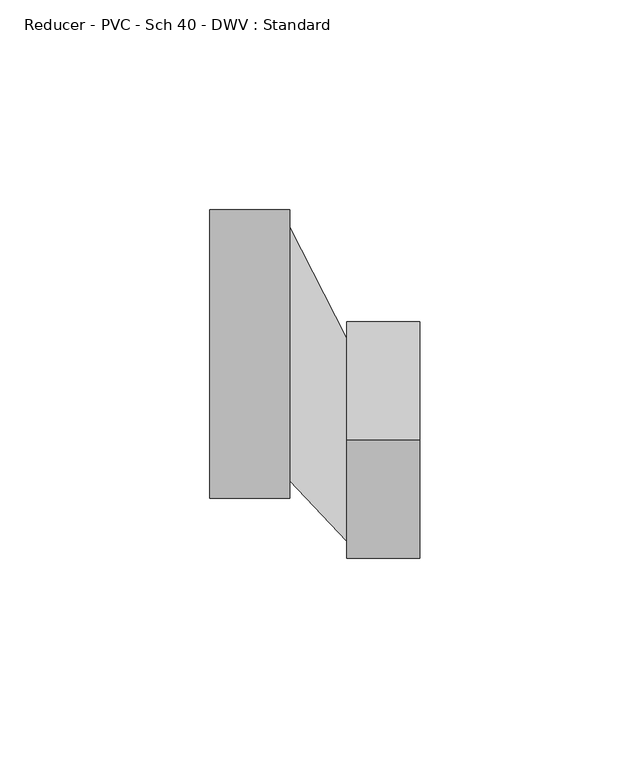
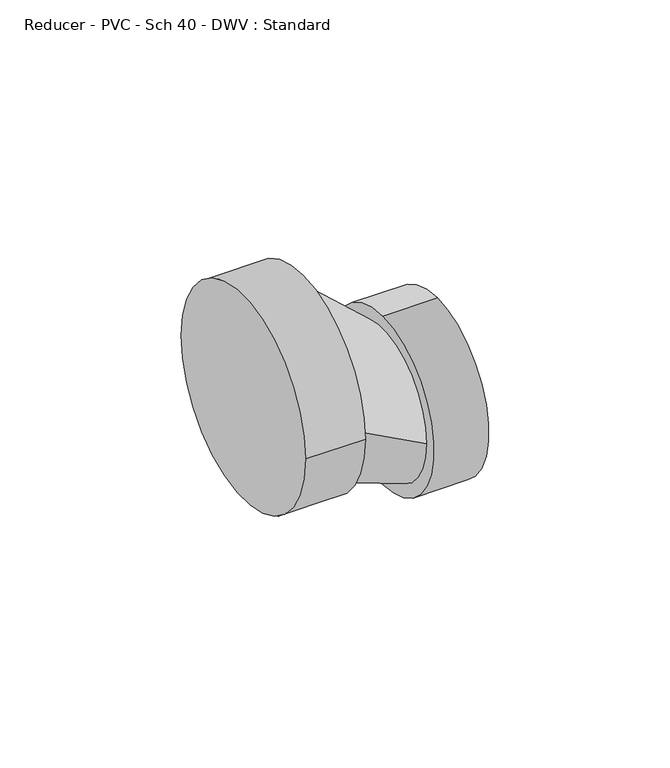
"""IFC4 building model written with IfcOpenShell, lengths in millimetres: pipe fitting geometry, Reducer - PVC - Sch 40 - DWV : Standard."""

from ifc_helpers import new_model, si_unit, frame, origin, place, context, project, spatial, circle_curve, source, transform, mapped, element, save
from ifc_brep_helpers import plane_surface, cylinder_surface, spline_surface, advanced_brep


def reducer_pvc_sch_40_dwv_standard_e5aaf6e1(model_context):
    return source(origin(), model_context, "Body", "AdvancedBrep", [
        advanced_brep(
        [(0.0, -34.3154, 0.0), (0.0, 34.3154, 0.0), (19.05, -34.3154, 0.0), (19.05, 34.3154, 0.0), (19.05, 30.1625, 0.0), (19.05, -30.1625, 0.0), (32.5374, 3.6518689, 0.0), (32.5374, -44.6081311, 0.0), (32.5374, -20.4781311, 28.2829), (32.5374, -20.4781311, -28.2829), (49.9872, -20.4781311, 28.2829), (49.9872, -20.4781311, -28.2829)],
        [
            (0, 1, circle_curve(frame((0.0, 0.0, 0.0), z_axis=(-1.0, 0.0, 0.0), x_axis=(0.0, 1.0, 0.0)), 34.3154)),
            (1, 0, circle_curve(frame((0.0, 0.0, 0.0), z_axis=(-1.0, 0.0, 0.0), x_axis=(0.0, 1.0, 0.0)), 34.3154)),
            (2, 3, circle_curve(frame((19.05, 0.0, 0.0), z_axis=(1.0, 0.0, 0.0), x_axis=(0.0, 1.0, 0.0)), 34.3154)),
            (3, 2, circle_curve(frame((19.05, 0.0, 0.0), z_axis=(1.0, 0.0, 0.0), x_axis=(0.0, 1.0, 0.0)), 34.3154)),
            (4, 5, circle_curve(frame((19.05, 0.0, 0.0), z_axis=(-1.0, 0.0, 0.0), x_axis=(0.0, 1.0, 0.0)), 30.1625)),
            (5, 4, circle_curve(frame((19.05, 0.0, 0.0), z_axis=(-1.0, 0.0, 0.0), x_axis=(0.0, 1.0, 0.0)), 30.1625)),
            (0, 2),
            (3, 1),
            (4, 6),
            (6, 7, circle_curve(frame((32.5374, -20.4781311, 0.0), z_axis=(-1.0, 0.0, 0.0), x_axis=(0.0, 1.0, 0.0)), 24.13)),
            (7, 5),
            (7, 6, circle_curve(frame((32.5374, -20.4781311, 0.0), z_axis=(-1.0, 0.0, 0.0), x_axis=(0.0, 1.0, 0.0)), 24.13)),
            (8, 9, circle_curve(frame((32.5374, -20.4781311, 0.0), z_axis=(-1.0, 0.0, 0.0), x_axis=(0.0, 0.0, -1.0)), 28.2829)),
            (9, 8, circle_curve(frame((32.5374, -20.4781311, 0.0), z_axis=(-1.0, 0.0, 0.0), x_axis=(0.0, 0.0, -1.0)), 28.2829)),
            (10, 11, circle_curve(frame((49.9872, -20.4781311, 0.0), z_axis=(1.0, 0.0, 0.0), x_axis=(0.0, 0.0, -1.0)), 28.2829)),
            (11, 10, circle_curve(frame((49.9872, -20.4781311, 0.0), z_axis=(1.0, 0.0, 0.0), x_axis=(0.0, 0.0, -1.0)), 28.2829)),
            (8, 10),
            (11, 9),
        ],
        [
            plane_surface(frame((0.0, 0.0, 0.0), z_axis=(-1.0, 0.0, 0.0), x_axis=(0.0, 0.0, 1.0))),
            plane_surface(frame((19.05, 0.0, 0.0), z_axis=(1.0, 0.0, 0.0), x_axis=(0.0, 0.0, 1.0))),
            cylinder_surface(frame((0.0, 0.0, 0.0), z_axis=(-1.0, 0.0, 0.0), x_axis=(0.0, 1.0, 0.0)), 34.3154),
            spline_surface(2, 1, [[(19.05, -30.1625, 0.0), (32.5374, -44.6081311, 0.0)], [(19.05, -30.1625, -30.1625), (32.5374, -44.6081311, -24.130000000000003)], [(19.05, 0.0, -30.1625), (32.5374, -20.4781311, -24.130000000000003)], [(19.05, 30.1625, -30.1625), (32.5374, 3.6518689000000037, -24.130000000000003)], [(19.05, 30.1625, 0.0), (32.5374, 3.6518689, 0.0)]], [3, 2, 3], [2, 2], [0.0, 1.0, 2.0], [0.0, 1.0], weights=[[1.0, 1.0], [0.7071067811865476, 0.7071067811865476], [1.0, 1.0], [0.7071067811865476, 0.7071067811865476], [1.0, 1.0]]),
            spline_surface(2, 1, [[(19.05, 30.1625, 0.0), (32.5374, 3.6518689, 0.0)], [(19.05, 30.1625, 30.1625), (32.5374, 3.6518689, 24.13)], [(19.05, 0.0, 30.1625), (32.5374, -20.4781311, 24.13)], [(19.05, -30.1625, 30.1625), (32.5374, -44.608131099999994, 24.13)], [(19.05, -30.1625, 0.0), (32.5374, -44.6081311, 0.0)]], [3, 2, 3], [2, 2], [0.0, 1.0, 2.0], [0.0, 1.0], weights=[[1.0, 1.0], [0.7071067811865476, 0.7071067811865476], [1.0, 1.0], [0.7071067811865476, 0.7071067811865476], [1.0, 1.0]]),
            plane_surface(frame((32.5374, -20.4781311, 0.0), z_axis=(-1.0, 0.0, 0.0), x_axis=(0.0, 1.0, 0.0))),
            plane_surface(frame((49.9872, -20.4781311, 0.0), z_axis=(1.0, 0.0, 0.0), x_axis=(0.0, 1.0, 0.0))),
            cylinder_surface(frame((32.5374, -20.4781311, 0.0), z_axis=(-1.0, 0.0, 0.0), x_axis=(0.0, 0.0, -1.0)), 28.2829),
        ],
        [
            (0, [[1, 2]]),
            (1, [[3, 4], [5, 6]]),
            (2, [[-1, 7, -4, 8]]),
            (2, [[-2, -8, -3, -7]]),
            (3, [[9, 10, 11, -5]]),
            (4, [[-9, -6, -11, 12]]),
            (5, [[13, 14], [-10, -12]]),
            (6, [[15, 16]]),
            (7, [[-13, 17, -16, 18]]),
            (7, [[-14, -18, -15, -17]]),
        ],
    ),
    ])


if __name__ == "__main__":
    model = new_model("IFC4")
    model_context = context("Model", 3, world=origin())
    ifc_project = project(units=[si_unit("LENGTHUNIT", "METRE", prefix="MILLI")], contexts=[model_context])
    site = spatial("IfcSite", under=ifc_project)
    building = spatial("IfcBuilding", under=site)
    placement = place(None, origin())
    reducer_pvc_sch_40_dwv_standard_shape = reducer_pvc_sch_40_dwv_standard_e5aaf6e1(model_context)
    element("IfcPipeFitting", 1, ObjectType="Reducer - PVC - Sch 40 - DWV : Standard", at=placement, inside=building, context=model_context, shape_type="MappedRepresentation", body=[
        mapped(reducer_pvc_sch_40_dwv_standard_shape, transform((0.0, 0.0, 0.0), x_axis=(1.0, 0.0, 0.0), y_axis=(0.0, 1.0, 0.0), z_axis=(0.0, 0.0, 1.0))),
    ])
    save(model, "model.ifc")
